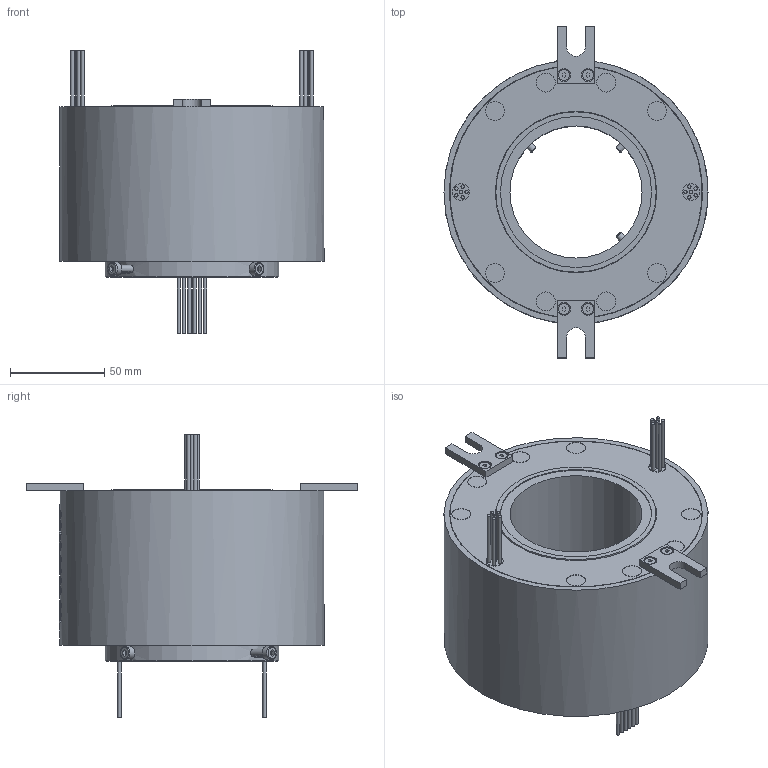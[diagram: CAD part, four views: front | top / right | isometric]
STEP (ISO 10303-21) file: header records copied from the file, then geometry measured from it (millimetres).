
FILE_DESCRIPTION(/* description */ (''),/* implementation_level */ '2;1');
FILE_NAME(/* name */ 'YD70140-1210-3D模型.stp',/* time_stamp */ '2025-09-04T15:33:03+08:00',/* author */ (''),/* organization */ (''),/* preprocessor_version */ 'ST-DEVELOPER v16.7',/* originating_system */ 'SIEMENS PLM Software NX 12.0',/* authorisation */ '');
FILE_SCHEMA (('AUTOMOTIVE_DESIGN { 1 0 10303 214 3 1 1 1 }'));
Length unit declared in the file: millimetre
Products named in the file (1): AdmiB53CE2DD1yv2
Bounding box: 140 x 176 x 150 mm (x, y, z)
Volume: 976754.7 mm3; surface area: 91244.1 mm2
Topology: 1 solids, 5 shells, 976 faces, 2569 edges, 1710 vertices
Faces by surface type: extrusion 452, plane 378, cylinder 91, bspline 33, cone 18, torus 4
Full cylindrical faces by diameter (mm): 1.8 x24, 3 x4, 3.4 x1, 3.5 x4, 4 x7, 6 x4, 7 x4, 9 x2, 10 x8, 70 x1, 80 x1, 85 x1, 85.5 x1, 92 x1, 133.8 x2, 134 x2, 140 x1
Entity records: 37611 total; most frequent: CARTESIAN_POINT 17314, ORIENTED_EDGE 4876, EDGE_CURVE 2438, DIRECTION 2438, B_SPLINE_CURVE_WITH_KNOTS 2203, VERTEX_POINT 1671, EDGE_LOOP 1183, ADVANCED_FACE 973
